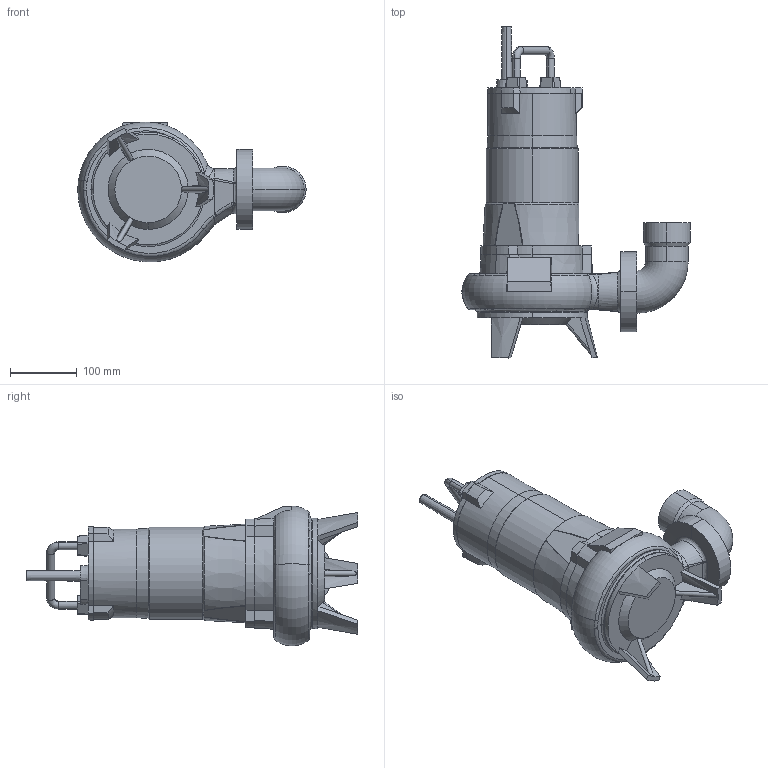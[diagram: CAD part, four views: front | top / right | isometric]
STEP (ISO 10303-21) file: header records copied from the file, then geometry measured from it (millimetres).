
FILE_DESCRIPTION (( 'STEP AP203' ), '1' );
FILE_NAME ('F102-152.STEP', '2022-10-10T13:58:10', ( '' ), ( '' ), 'SwSTEP 2.0', 'SolidWorks 2020', '' );
FILE_SCHEMA (( 'CONFIG_CONTROL_DESIGN' ));
Length unit declared in the file: millimetre
Products named in the file (1): F102-152
Bounding box: 342.47 x 498 x 209.71 mm (x, y, z)
Volume: 7508461.4 mm3; surface area: 321461.7 mm2
Topology: 1 solids, 4 shells, 246 faces, 626 edges, 391 vertices
Faces by surface type: plane 79, cone 53, cylinder 45, bspline 43, torus 26
Entity records: 10633 total; most frequent: CARTESIAN_POINT 5039, ORIENTED_EDGE 1240, DIRECTION 1058, EDGE_CURVE 620, AXIS2_PLACEMENT_3D 434, VERTEX_POINT 391, EDGE_LOOP 259, FACE_OUTER_BOUND 246
